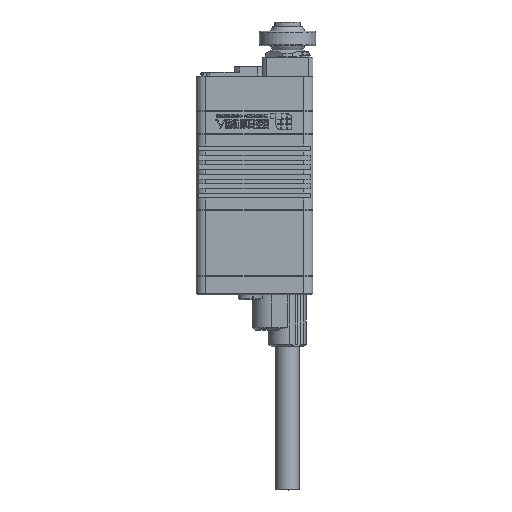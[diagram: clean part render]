
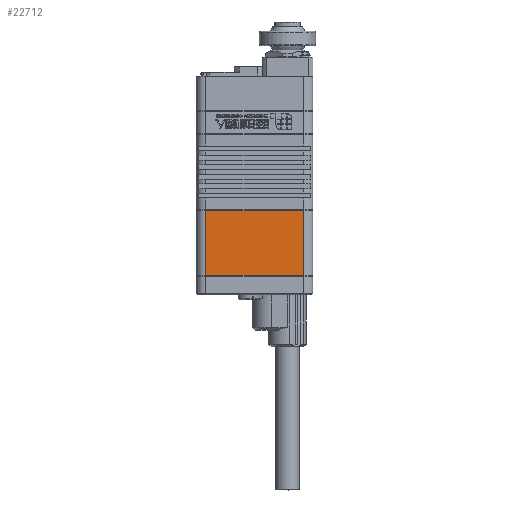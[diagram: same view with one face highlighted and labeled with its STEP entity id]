
A CAD part, top view. The second image highlights one B-rep face of the part: STEP entity #22712.
In plain terms, the highlighted planar face has unit normal (0, 0, 1).
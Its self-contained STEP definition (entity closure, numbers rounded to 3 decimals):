
#1657 = VECTOR ( 'NONE', #40778, 1000. ) ;
#2263 = CARTESIAN_POINT ( 'NONE',  ( 10.4, -16.05, 5.4 ) ) ;
#2534 = LINE ( 'NONE', #13341, #30128 ) ;
#3643 = EDGE_CURVE ( 'NONE', #25342, #33203, #26545, .T. ) ;
#4709 = CARTESIAN_POINT ( 'NONE',  ( 12.4, -1.1, 5.4 ) ) ;
#4785 = ORIENTED_EDGE ( 'NONE', *, *, #5894, .T. ) ;
#5894 = EDGE_CURVE ( 'NONE', #33203, #30403, #21762, .T. ) ;
#7684 = PLANE ( 'NONE',  #31298 ) ;
#8160 = FACE_OUTER_BOUND ( 'NONE', #33474, .T. ) ;
#9140 = ORIENTED_EDGE ( 'NONE', *, *, #27981, .T. ) ;
#10841 = LINE ( 'NONE', #39151, #19732 ) ;
#13127 = VECTOR ( 'NONE', #42481, 1000. ) ;
#13341 = CARTESIAN_POINT ( 'NONE',  ( -10.4, -1.1, 5.4 ) ) ;
#17189 = ORIENTED_EDGE ( 'NONE', *, *, #3643, .T. ) ;
#18345 = VERTEX_POINT ( 'NONE', #34725 ) ;
#18753 = DIRECTION ( 'NONE',  ( 0., 0., -1. ) ) ;
#19390 = CARTESIAN_POINT ( 'NONE',  ( 10.4, -1.1, 5.4 ) ) ;
#19732 = VECTOR ( 'NONE', #35938, 1000. ) ;
#20258 = CARTESIAN_POINT ( 'NONE',  ( 10.4, -2.15, 5.4 ) ) ;
#21408 = CARTESIAN_POINT ( 'NONE',  ( -10.4, -2.15, 5.4 ) ) ;
#21762 = LINE ( 'NONE', #39477, #13127 ) ;
#22194 = ORIENTED_EDGE ( 'NONE', *, *, #25929, .T. ) ;
#22712 = ADVANCED_FACE ( 'NONE', ( #8160 ), #7684, .F. ) ;
#25342 = VERTEX_POINT ( 'NONE', #2263 ) ;
#25929 = EDGE_CURVE ( 'NONE', #18345, #25342, #10841, .T. ) ;
#26545 = LINE ( 'NONE', #19390, #1657 ) ;
#27196 = DIRECTION ( 'NONE',  ( 0., -1., 0. ) ) ;
#27981 = EDGE_CURVE ( 'NONE', #30403, #18345, #2534, .T. ) ;
#28658 = DIRECTION ( 'NONE',  ( -1., 0., 0. ) ) ;
#30128 = VECTOR ( 'NONE', #27196, 1000. ) ;
#30403 = VERTEX_POINT ( 'NONE', #21408 ) ;
#31298 = AXIS2_PLACEMENT_3D ( 'NONE', #4709, #18753, #28658 ) ;
#33203 = VERTEX_POINT ( 'NONE', #20258 ) ;
#33474 = EDGE_LOOP ( 'NONE', ( #17189, #4785, #9140, #22194 ) ) ;
#34725 = CARTESIAN_POINT ( 'NONE',  ( -10.4, -16.05, 5.4 ) ) ;
#35938 = DIRECTION ( 'NONE',  ( 1., 0., 0. ) ) ;
#39151 = CARTESIAN_POINT ( 'NONE',  ( 10.4, -16.05, 5.4 ) ) ;
#39477 = CARTESIAN_POINT ( 'NONE',  ( -10.4, -2.15, 5.4 ) ) ;
#40778 = DIRECTION ( 'NONE',  ( 0., 1., 0. ) ) ;
#42481 = DIRECTION ( 'NONE',  ( -1., 0., 0. ) ) ;
